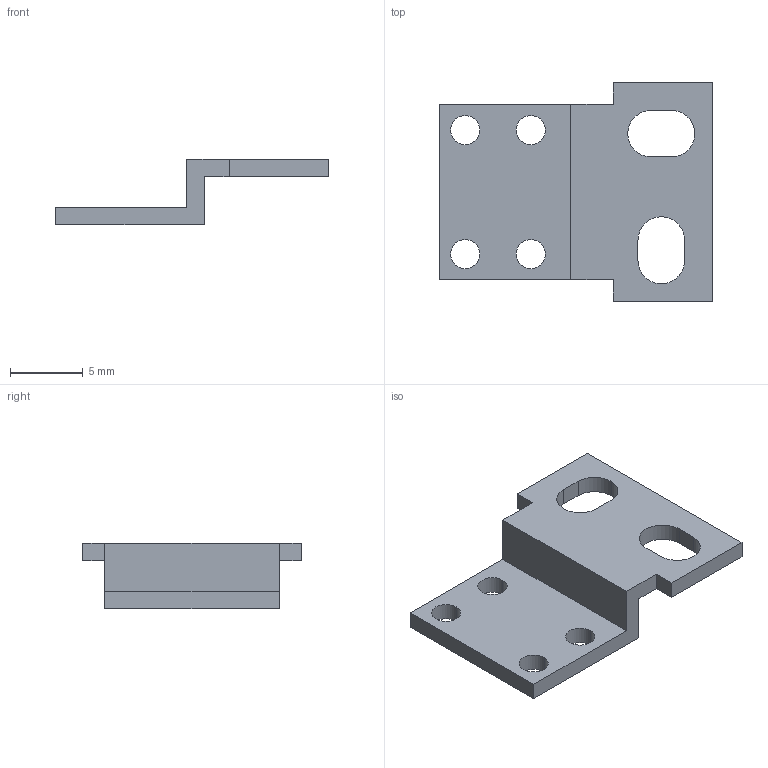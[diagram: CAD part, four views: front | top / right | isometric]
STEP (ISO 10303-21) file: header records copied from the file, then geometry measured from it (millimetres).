
FILE_DESCRIPTION (( 'STEP AP203' ), '1' );
FILE_NAME ('ms-exz-2.STEP', '2015-04-21T01:12:32', ( '' ), ( '' ), 'SwSTEP 2.0', 'SolidWorks 2010', '' );
FILE_SCHEMA (( 'CONFIG_CONTROL_DESIGN' ));
Length unit declared in the file: millimetre
Products named in the file (1): ms-exz-2
Bounding box: 18.7 x 15 x 4.5 mm (x, y, z)
Volume: 296.1 mm3; surface area: 643.4 mm2
Topology: 1 solids, 1 shells, 31 faces, 87 edges, 58 vertices
Faces by surface type: plane 18, cylinder 13
Entity records: 1108 total; most frequent: DIRECTION 177, CARTESIAN_POINT 177, ORIENTED_EDGE 174, EDGE_CURVE 87, VECTOR 61, LINE 61, VERTEX_POINT 58, AXIS2_PLACEMENT_3D 58
